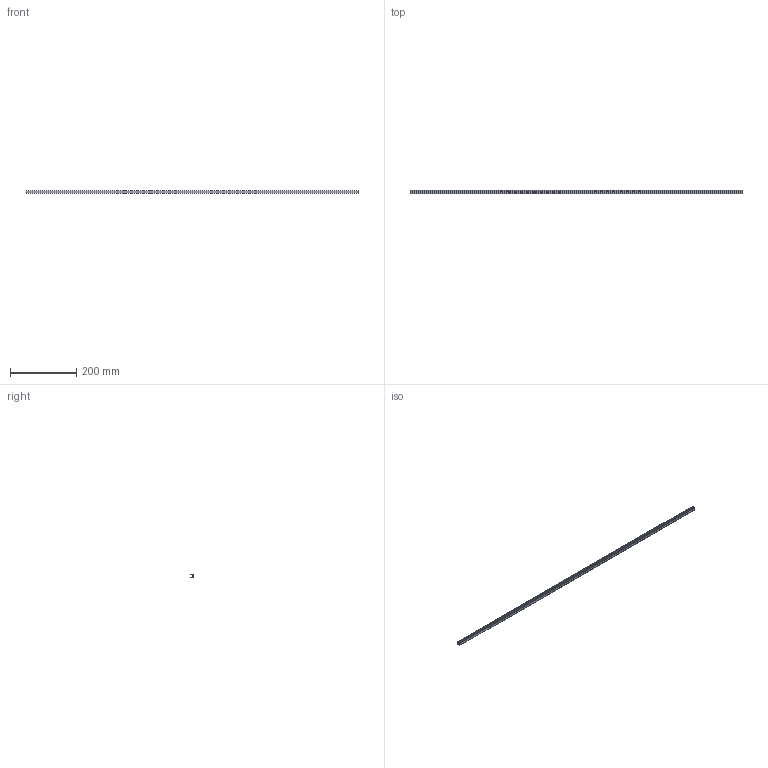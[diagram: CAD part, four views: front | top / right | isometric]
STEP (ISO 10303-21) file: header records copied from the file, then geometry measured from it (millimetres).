
FILE_DESCRIPTION (( 'STEP AP203' ), '1' );
FILE_NAME ('1004x_ABDEINPPX.STEP', '2018-03-02T10:56:59', ( '' ), ( '' ), 'SwSTEP 2.0', 'SolidWorks 2017', '' );
FILE_SCHEMA (( 'CONFIG_CONTROL_DESIGN' ));
Length unit declared in the file: millimetre
Products named in the file (1): 1004x_ABDEINPPX
Bounding box: 1000 x 11 x 8.94 mm (x, y, z)
Volume: 27492.3 mm3; surface area: 68875.1 mm2
Topology: 1 solids, 1 shells, 60 faces, 174 edges, 116 vertices
Faces by surface type: cylinder 30, plane 30
Entity records: 2075 total; most frequent: DIRECTION 356, CARTESIAN_POINT 351, ORIENTED_EDGE 348, EDGE_CURVE 174, AXIS2_PLACEMENT_3D 121, VERTEX_POINT 116, LINE 114, VECTOR 114
